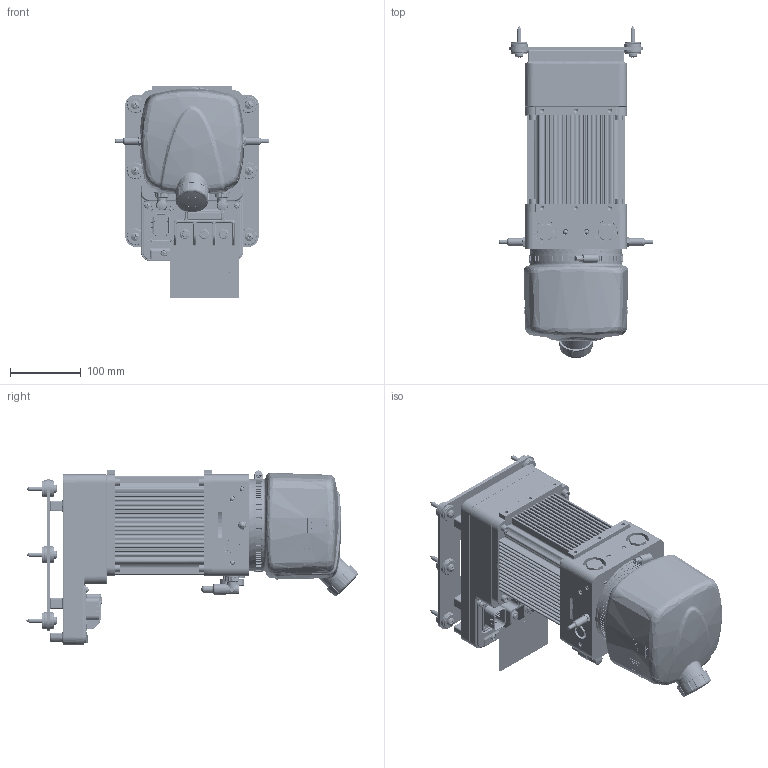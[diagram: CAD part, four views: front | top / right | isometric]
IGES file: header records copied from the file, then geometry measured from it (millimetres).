
Global section: file name: COMPLESSIVO ASSEMBLATO CENTRALINA SBW; native system: Autodesk Inventor 2020; preprocessor: unknown; author: Pagani; date: 20210217.075440; units: millimetre
Bounding box: 219.2 x 470.54 x 302 mm (x, y, z)
Volume: 2831700.6 mm3; surface area: 1448894 mm2
Topology: 280 solids, 344 shells, 15358 faces, 40184 edges, 26020 vertices
Faces by surface type: bspline 15358
